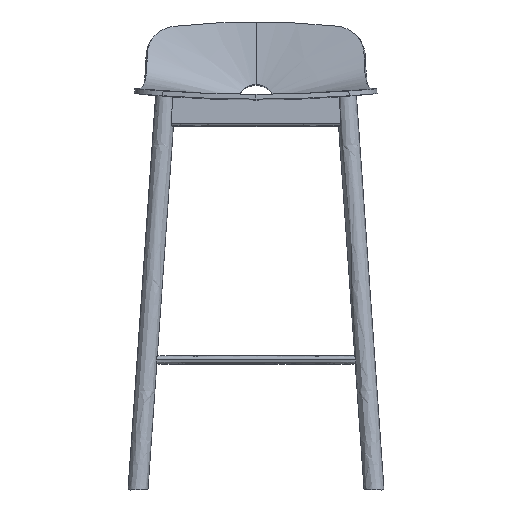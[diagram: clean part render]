
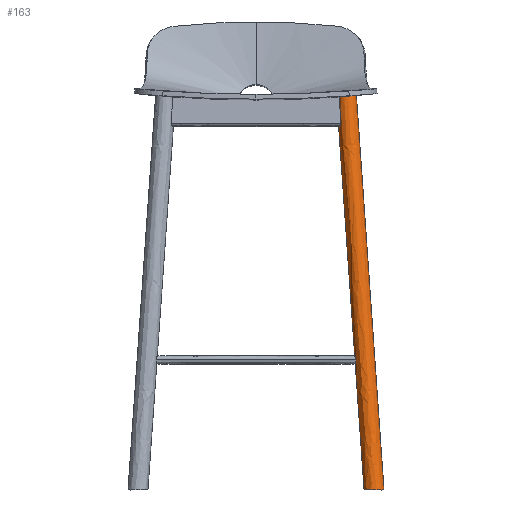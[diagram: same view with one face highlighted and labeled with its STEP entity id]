
A CAD part, front view. The second image highlights one B-rep face of the part: STEP entity #163.
In plain terms, the highlighted free-form (B-spline) face has degree [2, 1] with [5, 2] control points.
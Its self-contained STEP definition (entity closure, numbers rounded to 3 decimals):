
#163=ADVANCED_FACE('',(#240),#1201,.T.);
#240=FACE_OUTER_BOUND('',#317,.T.);
#317=EDGE_LOOP('',(#398,#399,#400,#401));
#398=ORIENTED_EDGE('',*,*,#738,.T.);
#399=ORIENTED_EDGE('',*,*,#739,.T.);
#400=ORIENTED_EDGE('',*,*,#735,.F.);
#401=ORIENTED_EDGE('',*,*,#736,.T.);
#735=EDGE_CURVE('',#1085,#1084,#939,.T.);
#736=EDGE_CURVE('',#1085,#1087,#909,.T.);
#738=EDGE_CURVE('',#1087,#1086,#941,.T.);
#739=EDGE_CURVE('',#1086,#1084,#910,.T.);
#909=(
BOUNDED_CURVE()
B_SPLINE_CURVE(1,(#2744,#2745),.UNSPECIFIED.,.F.,.F.)
B_SPLINE_CURVE_WITH_KNOTS((2,2),(-1526.738,-873.182),
 .UNSPECIFIED.)
CURVE()
GEOMETRIC_REPRESENTATION_ITEM()
RATIONAL_B_SPLINE_CURVE((1.,1.))
REPRESENTATION_ITEM('')
);
#910=(
BOUNDED_CURVE()
B_SPLINE_CURVE(1,(#2784,#2785),.UNSPECIFIED.,.F.,.F.)
B_SPLINE_CURVE_WITH_KNOTS((2,2),(870.868,1527.124),
 .UNSPECIFIED.)
CURVE()
GEOMETRIC_REPRESENTATION_ITEM()
RATIONAL_B_SPLINE_CURVE((1.,1.))
REPRESENTATION_ITEM('')
);
#939=B_SPLINE_CURVE_WITH_KNOTS('',3,(#2708,#2709,#2710,#2711,#2712,#2713,
#2714,#2715,#2716,#2717,#2718,#2719,#2720,#2721,#2722,#2723,#2724,#2725,
#2726,#2727,#2728,#2729,#2730,#2731,#2732,#2733,#2734,#2735,#2736,#2737,
#2738,#2739,#2740,#2741,#2742,#2743),.UNSPECIFIED.,.F.,.F.,(4,2,2,2,2,2,
2,2,2,2,2,2,2,2,2,2,2,4),(-52.439,-46.142,-44.47,
-42.771,-39.334,-32.512,-29.281,
-26.214,-23.147,-21.55,-19.912,
-18.24,-16.541,-13.104,-9.667,
-7.969,-6.297,0.),.UNSPECIFIED.);
#941=B_SPLINE_CURVE_WITH_KNOTS('',3,(#2765,#2766,#2767,#2768,#2769,#2770,
#2771,#2772,#2773,#2774,#2775,#2776,#2777,#2778,#2779,#2780,#2781,#2782,
#2783),.UNSPECIFIED.,.F.,.F.,(4,2,2,2,3,2,2,2,4),(0.,6.547,13.094,
19.641,26.188,32.715,39.243,45.771,
52.298),.UNSPECIFIED.);
#1084=VERTEX_POINT('',#2674);
#1085=VERTEX_POINT('',#2675);
#1086=VERTEX_POINT('',#2676);
#1087=VERTEX_POINT('',#2677);
#1201=(
BOUNDED_SURFACE()
B_SPLINE_SURFACE(2,1,((#2664,#2665),(#2666,#2667),(#2668,#2669),(#2670,
#2671),(#2672,#2673)),.UNSPECIFIED.,.F.,.F.,.F.)
B_SPLINE_SURFACE_WITH_KNOTS((3,2,3),(2,2),(51.836,77.754,
103.673),(0.,1564.885),.UNSPECIFIED.)
GEOMETRIC_REPRESENTATION_ITEM()
RATIONAL_B_SPLINE_SURFACE(((1.,1.),(0.707,0.707),
(1.,1.),(0.707,0.707),(1.,1.)))
REPRESENTATION_ITEM('')
SURFACE()
);
#2664=CARTESIAN_POINT('',(231.781,-263.169,-869.85));
#2665=CARTESIAN_POINT('',(122.886,-154.008,687.42));
#2666=CARTESIAN_POINT('',(231.701,-279.628,-868.702));
#2667=CARTESIAN_POINT('',(122.806,-170.467,688.568));
#2668=CARTESIAN_POINT('',(248.16,-279.628,-867.551));
#2669=CARTESIAN_POINT('',(139.265,-170.467,689.719));
#2670=CARTESIAN_POINT('',(264.62,-279.628,-866.4));
#2671=CARTESIAN_POINT('',(155.725,-170.467,690.87));
#2672=CARTESIAN_POINT('',(264.7,-263.169,-867.549));
#2673=CARTESIAN_POINT('',(155.806,-154.008,689.722));
#2674=CARTESIAN_POINT('',(158.433,-156.642,652.144));
#2675=CARTESIAN_POINT('',(125.54,-156.669,649.459));
#2676=CARTESIAN_POINT('',(204.1,-202.42,-0.918));
#2677=CARTESIAN_POINT('',(171.019,-202.258,-0.918));
#2708=CARTESIAN_POINT('',(125.54,-156.669,649.459));
#2709=CARTESIAN_POINT('',(125.538,-158.751,649.499));
#2710=CARTESIAN_POINT('',(125.926,-160.811,649.568));
#2711=CARTESIAN_POINT('',(126.889,-163.261,649.687));
#2712=CARTESIAN_POINT('',(127.115,-163.762,649.713));
#2713=CARTESIAN_POINT('',(127.624,-164.752,649.77));
#2714=CARTESIAN_POINT('',(127.904,-165.235,649.8));
#2715=CARTESIAN_POINT('',(128.828,-166.657,649.896));
#2716=CARTESIAN_POINT('',(129.543,-167.542,649.965));
#2717=CARTESIAN_POINT('',(131.931,-169.942,650.188));
#2718=CARTESIAN_POINT('',(133.828,-171.194,650.352));
#2719=CARTESIAN_POINT('',(136.909,-172.418,650.608));
#2720=CARTESIAN_POINT('',(137.935,-172.713,650.691));
#2721=CARTESIAN_POINT('',(139.977,-173.091,650.855));
#2722=CARTESIAN_POINT('',(140.967,-173.182,650.933));
#2723=CARTESIAN_POINT('',(142.99,-173.18,651.091));
#2724=CARTESIAN_POINT('',(143.98,-173.088,651.167));
#2725=CARTESIAN_POINT('',(145.492,-172.805,651.283));
#2726=CARTESIAN_POINT('',(146.002,-172.684,651.321));
#2727=CARTESIAN_POINT('',(147.028,-172.387,651.399));
#2728=CARTESIAN_POINT('',(147.536,-172.213,651.437));
#2729=CARTESIAN_POINT('',(148.551,-171.808,651.513));
#2730=CARTESIAN_POINT('',(149.05,-171.579,651.55));
#2731=CARTESIAN_POINT('',(150.036,-171.065,651.623));
#2732=CARTESIAN_POINT('',(150.517,-170.783,651.658));
#2733=CARTESIAN_POINT('',(151.933,-169.851,651.761));
#2734=CARTESIAN_POINT('',(152.815,-169.13,651.824));
#2735=CARTESIAN_POINT('',(154.415,-167.519,651.936));
#2736=CARTESIAN_POINT('',(155.131,-166.633,651.985));
#2737=CARTESIAN_POINT('',(156.056,-165.21,652.045));
#2738=CARTESIAN_POINT('',(156.336,-164.727,652.062));
#2739=CARTESIAN_POINT('',(156.846,-163.737,652.093));
#2740=CARTESIAN_POINT('',(157.073,-163.236,652.107));
#2741=CARTESIAN_POINT('',(158.039,-160.784,652.159));
#2742=CARTESIAN_POINT('',(158.431,-158.724,652.169));
#2743=CARTESIAN_POINT('',(158.433,-156.642,652.144));
#2744=CARTESIAN_POINT('',(125.54,-156.669,649.459));
#2745=CARTESIAN_POINT('',(171.019,-202.258,-0.918));
#2765=CARTESIAN_POINT('',(171.019,-202.258,-0.918));
#2766=CARTESIAN_POINT('',(171.019,-204.434,-0.918));
#2767=CARTESIAN_POINT('',(171.448,-206.588,-0.918));
#2768=CARTESIAN_POINT('',(173.111,-210.608,-0.918));
#2769=CARTESIAN_POINT('',(174.329,-212.436,-0.918));
#2770=CARTESIAN_POINT('',(177.398,-215.52,-0.918));
#2771=CARTESIAN_POINT('',(179.22,-216.747,-0.918));
#2772=CARTESIAN_POINT('',(183.232,-218.429,-0.918));
#2773=CARTESIAN_POINT('',(185.384,-218.869,-0.918));
#2774=CARTESIAN_POINT('',(187.559,-218.879,-0.918));
#2775=CARTESIAN_POINT('',(189.728,-218.89,-0.918));
#2776=CARTESIAN_POINT('',(191.878,-218.474,-0.918));
#2777=CARTESIAN_POINT('',(195.893,-216.832,-0.918));
#2778=CARTESIAN_POINT('',(197.718,-215.622,-0.918));
#2779=CARTESIAN_POINT('',(200.793,-212.562,-0.918));
#2780=CARTESIAN_POINT('',(202.011,-210.743,-0.918));
#2781=CARTESIAN_POINT('',(203.673,-206.736,-0.918));
#2782=CARTESIAN_POINT('',(204.1,-204.589,-0.918));
#2783=CARTESIAN_POINT('',(204.1,-202.42,-0.918));
#2784=CARTESIAN_POINT('',(204.1,-202.42,-0.918));
#2785=CARTESIAN_POINT('',(158.433,-156.642,652.144));
